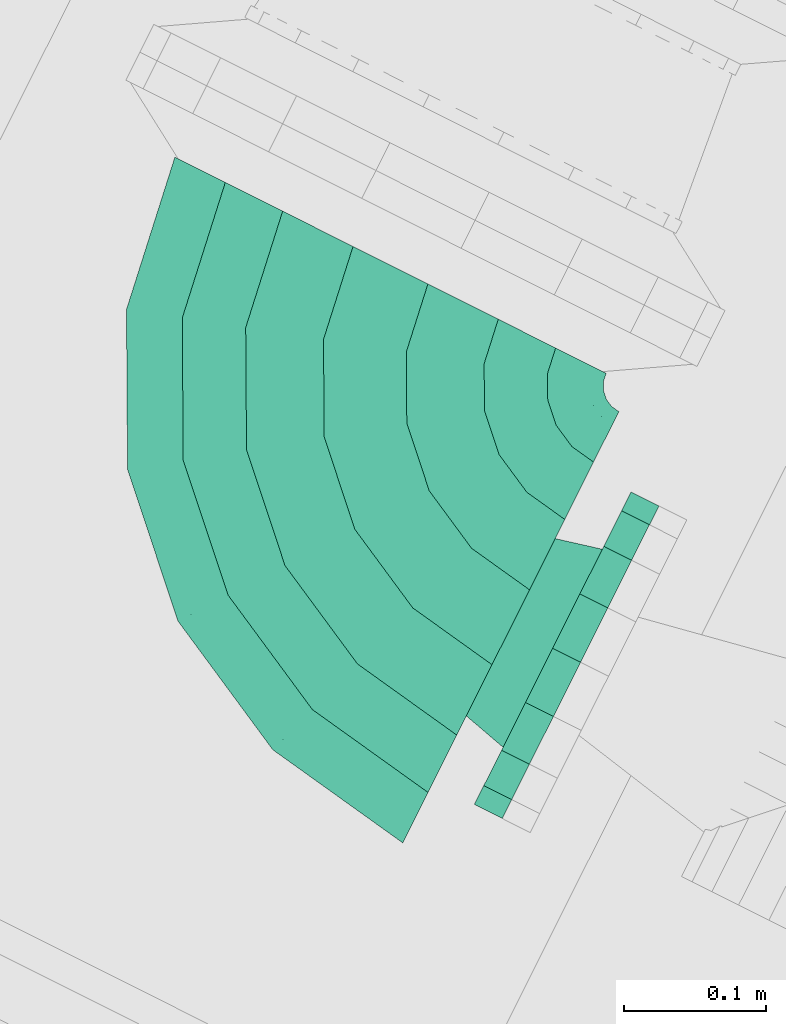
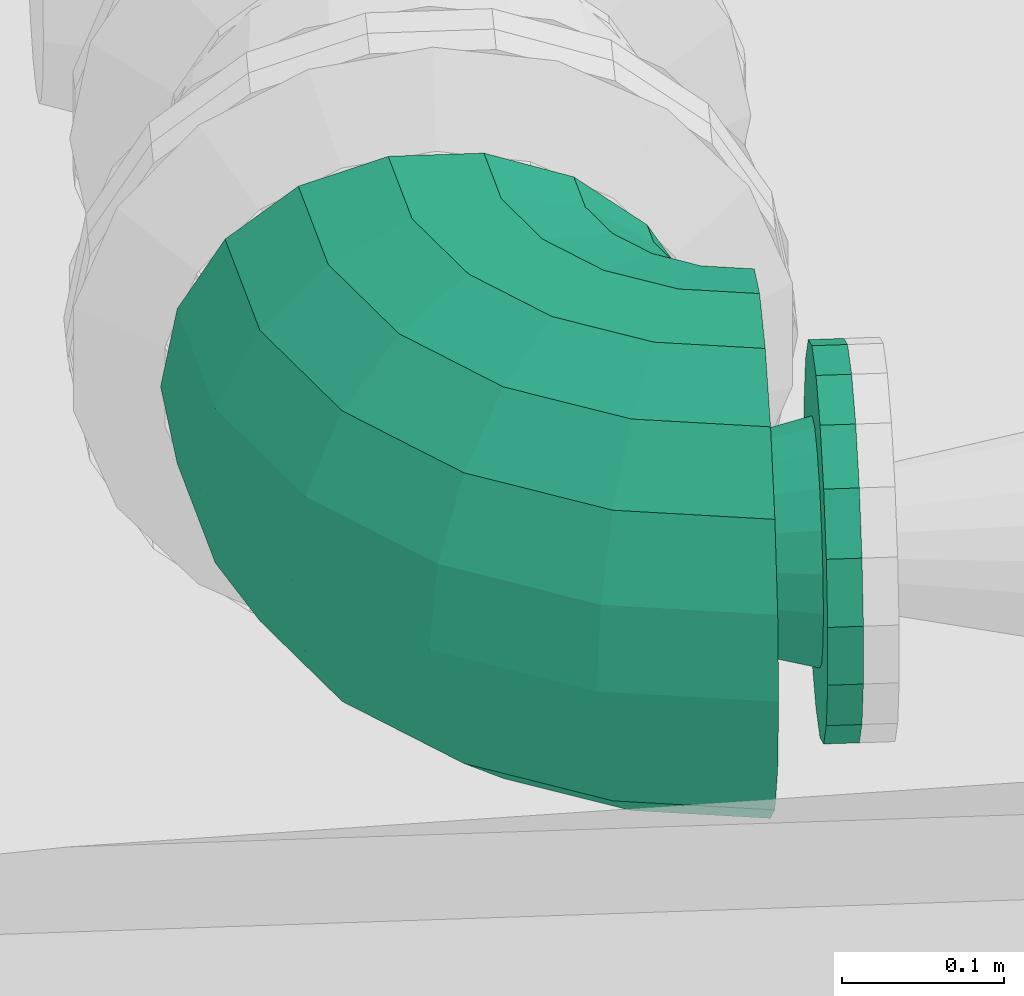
# One storey, part 50 of 206: 1 flow fitting, 1 flow segment.
"""IFC2X3 building model written with IfcOpenShell, lengths in metres."""

import ifcopenshell
import ifcopenshell.guid

model = None  # the IFC model being written
_history = None  # IfcOwnerHistory: only IFC2X3 demands one
_inside = {}  # id of a spatial element -> (the spatial element, [elements in it])
_under = {}  # id of a project, library or spatial element -> (it, [spatial elements below it])
_declared = {}  # id of a project -> (the project, [libraries it declares])
_typed = {}  # id of a type object -> (the type object, [elements of that type])
_made_of = {}  # id of a material, layer set ... -> (it, [elements and type objects made of it])


def new_model(schema):
    """Start an empty IFC model of exactly this schema.

    Asked for "IFC4X3", IfcOpenShell would pick the latest addendum, in which some entities
    have other attributes; the version numbers below select the first issue.
    IFC2X3 requires an IfcOwnerHistory on every rooted entity: one is made here for all.
    """
    global model, _history
    if schema == "IFC4X3":
        model = ifcopenshell.file(schema_version=(4, 3, 0, 0))
    else:
        model = ifcopenshell.file(schema=schema)
    _inside.clear()
    _under.clear()
    _declared.clear()
    _typed.clear()
    _made_of.clear()
    _history = None
    if model.schema == "IFC2X3":
        org = make("IfcOrganization", Name="unknown")
        user = make(
            "IfcPersonAndOrganization",
            ThePerson=make("IfcPerson", FamilyName="unknown"),
            TheOrganization=org,
        )
        app = make(
            "IfcApplication",
            ApplicationDeveloper=org,
            Version="unknown",
            ApplicationFullName="unknown",
            ApplicationIdentifier="unknown",
        )
        _history = make(
            "IfcOwnerHistory",
            OwningUser=user,
            OwningApplication=app,
            ChangeAction="ADDED",
            CreationDate=0,
        )
    return model


def make(cls, **values):
    """One entity of the class cls with the attributes given. An attribute that is None is left unset."""
    return model.create_entity(
        cls, **{name: value for name, value in values.items() if value is not None}
    )


def rooted(cls, **values):
    """An entity with a GlobalId (a new one), such as an element, a storey or a relation."""
    return make(cls, GlobalId=ifcopenshell.guid.new(), OwnerHistory=_history, **values)


def si_unit(unit_type, name, prefix=None):
    """IfcSIUnit, for example si_unit("LENGTHUNIT", "METRE", prefix="MILLI")."""
    return make("IfcSIUnit", UnitType=unit_type, Prefix=prefix, Name=name)


def derived_unit(unit_type, elements):
    """IfcDerivedUnit: a product of units, each with its exponent."""
    return make(
        "IfcDerivedUnit",
        Elements=[
            make("IfcDerivedUnitElement", Unit=unit, Exponent=power)
            for unit, power in elements
        ],
        UnitType=unit_type,
    )


def assignment(units):
    """IfcUnitAssignment: the units of a project."""
    return None if units is None else make("IfcUnitAssignment", Units=units)


def point(xyz):
    """IfcCartesianPoint."""
    return None if xyz is None else make("IfcCartesianPoint", Coordinates=xyz)


def direction(xyz):
    """IfcDirection."""
    return None if xyz is None else make("IfcDirection", DirectionRatios=xyz)


def frame(location, z_axis=None, x_axis=None):
    """IfcAxis2Placement3D, a coordinate frame: its origin and axes. An axis left out is left unset."""
    return make(
        "IfcAxis2Placement3D",
        Location=point(location),
        Axis=direction(z_axis),
        RefDirection=direction(x_axis),
    )


def origin():
    """The frame at (0, 0, 0) with its axes left unset."""
    return frame((0.0, 0.0, 0.0))


def place(relative_to, where):
    """IfcLocalPlacement: puts the frame where relative to a parent placement (None: the world)."""
    return make(
        "IfcLocalPlacement", PlacementRelTo=relative_to, RelativePlacement=where
    )


def context(
    kind, dimensions, precision=None, world=None, true_north=None, identifier=None
):
    """IfcGeometricRepresentationContext, for example the 3D "Model" context."""
    return make(
        "IfcGeometricRepresentationContext",
        ContextIdentifier=identifier,
        ContextType=kind,
        CoordinateSpaceDimension=dimensions,
        Precision=precision,
        WorldCoordinateSystem=world,
        TrueNorth=true_north,
    )


def subcontext(parent, identifier, kind, view, scale=None):
    """IfcGeometricRepresentationSubContext, for example "Body" below "Model"."""
    return make(
        "IfcGeometricRepresentationSubContext",
        ContextIdentifier=identifier,
        ContextType=kind,
        ParentContext=parent,
        TargetScale=scale,
        TargetView=view,
    )


def project(units=None, contexts=None):
    """IfcProject with its units and contexts."""
    return rooted(
        "IfcProject",
        Name="project",
        RepresentationContexts=contexts,
        UnitsInContext=assignment(units),
    )


def spatial(cls, under=None, at=None, **own):
    """A site, building, storey or space (cls), placed at a placement, below another one or the project."""
    s = rooted(cls, ObjectPlacement=at, **own)
    if under is not None:
        _under.setdefault(under.id(), (under, []))[1].append(s)
    return s


def faces_of(points, faces, orient=None, outer=None):
    """IfcFace entities. A face is a list of loops; a loop is a list of indices into points, from 0.

    orient and outer hold one flag for each loop. By default every Orientation is true, the
    first loop of a face is its IfcFaceOuterBound and the others are IfcFaceBound.
    """
    made = []
    for i, loops in enumerate(faces):
        bounds = []
        for j, loop in enumerate(loops):
            is_outer = j == 0 if outer is None else outer[i][j]
            bounds.append(
                make(
                    "IfcFaceOuterBound" if is_outer else "IfcFaceBound",
                    Bound=make("IfcPolyLoop", Polygon=[points[k] for k in loop]),
                    Orientation=True if orient is None else orient[i][j],
                )
            )
        made.append(make("IfcFace", Bounds=bounds))
    return made


def face_set(faces, orient=None, outer=None):
    """The faces of one IfcConnectedFaceSet. surface_model builds it on its shared points."""
    return ("IfcConnectedFaceSet", faces, orient, outer)


def surface_model(cls, points, shells):
    """IfcFaceBasedSurfaceModel or IfcShellBasedSurfaceModel (cls): surfaces that need not close."""
    shared = [point(p) for p in points]
    made = [make(c, CfsFaces=faces_of(shared, fs, o, b)) for c, fs, o, b in shells]
    if cls == "IfcFaceBasedSurfaceModel":
        return make(cls, FbsmFaces=made)
    return make(cls, SbsmBoundary=made)


def shape(context_of_items, identifier, shape_type, items):
    """IfcShapeRepresentation: the items that make up one representation, for example the "Body"."""
    return make(
        "IfcShapeRepresentation",
        ContextOfItems=context_of_items,
        RepresentationIdentifier=identifier,
        RepresentationType=shape_type,
        Items=items,
    )


def source(mapping_origin, context_of_items, identifier, shape_type, items):
    """IfcRepresentationMap: a shape defined once, which mapped items show again and again."""
    return make(
        "IfcRepresentationMap",
        MappingOrigin=mapping_origin,
        MappedRepresentation=shape(context_of_items, identifier, shape_type, items),
    )


def transform(
    local_origin,
    x_axis=None,
    y_axis=None,
    z_axis=None,
    scale=None,
    scale2=None,
    scale3=None,
    uniform=True,
):
    """IfcCartesianTransformationOperator3D, or its non-uniform kind. x_axis, y_axis, z_axis: its Axis1, 2, 3."""
    if uniform:
        return make(
            "IfcCartesianTransformationOperator3D",
            Axis1=direction(x_axis),
            Axis2=direction(y_axis),
            LocalOrigin=point(local_origin),
            Scale=scale,
            Axis3=direction(z_axis),
        )
    return make(
        "IfcCartesianTransformationOperator3DnonUniform",
        Axis1=direction(x_axis),
        Axis2=direction(y_axis),
        LocalOrigin=point(local_origin),
        Scale=scale,
        Axis3=direction(z_axis),
        Scale2=scale2,
        Scale3=scale3,
    )


def mapped(mapping_source, mapping_target):
    """IfcMappedItem: shows the shape of a source again, moved by a transform."""
    return make(
        "IfcMappedItem", MappingSource=mapping_source, MappingTarget=mapping_target
    )


def material(Name=None, Category=None):
    """IfcMaterial."""
    return make("IfcMaterial", Name=Name, Category=Category)


def made_of(thing, what):
    """Note that an element or type object is made of a material, layer set ...; save() writes the relation."""
    if what is not None:
        _made_of.setdefault(what.id(), (what, []))[1].append(thing)
    return thing


def type_object(cls, material=None, **own):
    """A type object (cls), such as IfcWallType, which elements share."""
    return made_of(rooted(cls, **own), material)


def type_shapes(of_type, sources):
    """Give a type object the sources (RepresentationMaps) that its elements show as mapped items."""
    of_type.RepresentationMaps = sources


def element(
    cls,
    number,
    at=None,
    inside=None,
    cuts=None,
    type_object=None,
    material=None,
    context=None,
    identifier="Body",
    shape_type=None,
    held_by="IfcProductDefinitionShape",
    body=None,
    shapes=None,
    **own,
):
    """One element of the class cls, such as IfcWall. Its Tag is "e" and its number.

    at: its placement. inside: the storey or other place that contains it. cuts: it is an
    opening in that element (IfcRelVoidsElement). A single representation is given by context,
    identifier, shape_type and body (its items); several are given by shapes. held_by: the class
    of the entity that holds the representations. save() writes the other relations.
    """
    e = rooted(cls, Tag="e%d" % number, ObjectPlacement=at, **own)
    if body is not None:
        shapes = [shape(context, identifier, shape_type, body)]
    if shapes is not None:
        e.Representation = make(held_by, Representations=shapes)
    if inside is not None:
        _inside.setdefault(inside.id(), (inside, []))[1].append(e)
    if cuts is not None:
        rooted(
            "IfcRelVoidsElement", RelatingBuildingElement=cuts, RelatedOpeningElement=e
        )
    if type_object is not None:
        _typed.setdefault(type_object.id(), (type_object, []))[1].append(e)
    return made_of(e, material)


def aggregate(whole, parts):
    """IfcRelAggregates: a whole, such as a stair, and the parts it consists of."""
    return rooted("IfcRelAggregates", RelatingObject=whole, RelatedObjects=parts)


def save(model, path):
    """Write the relations noted so far, then the file.

    IfcRelAggregates (storeys below a building ...), IfcRelContainedInSpatialStructure (elements
    in a storey), IfcRelDefinesByType, IfcRelAssociatesMaterial and IfcRelDeclares: one each for
    every whole, place, type object, material and project.
    """
    for whole, parts in _under.values():
        aggregate(whole, parts)
    for where, things in _inside.values():
        rooted(
            "IfcRelContainedInSpatialStructure",
            RelatedElements=things,
            RelatingStructure=where,
        )
    for kind, things in _typed.values():
        rooted("IfcRelDefinesByType", RelatedObjects=things, RelatingType=kind)
    for what, things in _made_of.values():
        rooted("IfcRelAssociatesMaterial", RelatedObjects=things, RelatingMaterial=what)
    for by, libraries in _declared.values():
        rooted("IfcRelDeclares", RelatingContext=by, RelatedDefinitions=libraries)
    model.write(path)


model = new_model("IFC2X3")

# Units and contexts
model_context = context("Model", 3, precision=5.2338327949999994e-05, world=origin(), true_north=direction((0.0, 1.0)))
body_context = subcontext(model_context, "Body", "Model", "MODEL_VIEW")
ifc_project = project(units=[si_unit("LENGTHUNIT", "METRE"), si_unit("AREAUNIT", "SQUARE_METRE"), si_unit("VOLUMEUNIT", "CUBIC_METRE"), si_unit("MASSUNIT", "GRAM", prefix="KILO"), si_unit("PLANEANGLEUNIT", "RADIAN"), derived_unit("THERMALTRANSMITTANCEUNIT", [(si_unit("MASSUNIT", "GRAM", prefix="KILO"), 1), (si_unit("THERMODYNAMICTEMPERATUREUNIT", "KELVIN"), -1), (si_unit("TIMEUNIT", "SECOND"), -3)])], contexts=[model_context])

# Site, building, storey
site_placement = place(None, frame((0.0, 0.0, 0.0), z_axis=(0.0, 0.0, 1.0), x_axis=(0.8939966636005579, -0.4480736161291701, 0.0)))
site = spatial("IfcSite", under=ifc_project, at=site_placement, Name="Default", CompositionType="ELEMENT")
building_placement = place(site_placement, origin())
building = spatial("IfcBuilding", under=site, at=building_placement, CompositionType="ELEMENT")
storey_placement = place(building_placement, origin())
storey = spatial("IfcBuildingStorey", under=building, at=storey_placement, Name="Erdgeschoss", CompositionType="ELEMENT", Elevation=0.0)

# Flow segment
ifc_material = material(Name="IfcSurfaceStyle #1741")
distribution_element_type_1 = type_object("IfcDistributionElementType", Name="Rohrbogen 319884:Rohrbogen 319884", material=ifc_material)
shared_shape_1 = source(origin(), body_context, "Body", "SurfaceModel", [
    surface_model("IfcFaceBasedSurfaceModel", [(23.01500389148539, 5.585961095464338, 2.3540000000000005), (23.01921636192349, 5.585961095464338, 2.330109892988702), (23.03172815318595, 5.506964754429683, 2.3301098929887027), (23.027721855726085, 5.505663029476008, 2.354), (23.068038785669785, 5.435701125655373, 2.330109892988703), (23.06463082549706, 5.433225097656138, 2.3539999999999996), (23.124593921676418, 5.379145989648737, 2.330109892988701), (23.12211789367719, 5.375738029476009, 2.353999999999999), (23.195857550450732, 5.342835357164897, 2.330109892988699), (23.194555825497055, 5.338829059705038, 2.353999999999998), (23.27485389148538, 5.330323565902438, 2.3301098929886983), (23.274853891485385, 5.326111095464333, 2.353999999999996), (23.031345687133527, 5.585961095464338, 2.3091012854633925), (23.04326382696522, 5.510712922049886, 2.309101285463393), (23.077851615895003, 5.44283056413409, 2.3091012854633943), (23.131723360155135, 5.388958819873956, 2.3091012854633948), (23.19960571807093, 5.354371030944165, 2.3091012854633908), (23.274853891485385, 5.342452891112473, 2.3091012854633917), (23.04992889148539, 5.585961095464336, 2.2935081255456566), (23.0609375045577, 5.516455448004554, 2.2935081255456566), (23.092885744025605, 5.45375349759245, 2.2935081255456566), (23.142646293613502, 5.40399294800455, 2.2935081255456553), (23.205348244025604, 5.372044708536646, 2.2935081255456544), (23.274853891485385, 5.361036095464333, 2.2935081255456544), (23.07272456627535, 5.585961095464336, 2.2852111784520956), (23.08261747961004, 5.523499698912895, 2.2852111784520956), (23.111327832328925, 5.467152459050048, 2.285211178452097), (23.1560452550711, 5.422435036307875, 2.2852111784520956), (23.21239249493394, 5.393724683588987, 2.285211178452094), (23.274853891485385, 5.383831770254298, 2.285211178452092), (23.096983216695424, 5.585961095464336, 2.285211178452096), (23.105688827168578, 5.530996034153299, 2.285211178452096), (23.130953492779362, 5.4814113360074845, 2.2852111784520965), (23.170304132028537, 5.442060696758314, 2.285211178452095), (23.219888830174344, 5.416796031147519, 2.285211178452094), (23.27485389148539, 5.408090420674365, 2.285211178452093), (23.11977889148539, 5.585961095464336, 2.2935081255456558), (23.127368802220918, 5.538040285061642, 2.2935081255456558), (23.14939558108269, 5.494810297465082, 2.2935081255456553), (23.18370309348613, 5.460502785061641, 2.293508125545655), (23.226933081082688, 5.438476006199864, 2.2935081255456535), (23.274853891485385, 5.430886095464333, 2.2935081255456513), (23.13836209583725, 5.585961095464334, 2.3091012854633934), (23.145042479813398, 5.54378281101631, 2.3091012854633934), (23.16442970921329, 5.505733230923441, 2.309101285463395), (23.194626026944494, 5.475536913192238, 2.3091012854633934), (23.232675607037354, 5.456149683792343, 2.3091012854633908), (23.274853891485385, 5.449469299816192, 2.30910128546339), (23.15049142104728, 5.585961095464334, 2.3301098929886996), (23.156578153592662, 5.547530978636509, 2.3301098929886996), (23.174242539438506, 5.512862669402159, 2.330109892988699), (23.20175546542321, 5.485349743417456, 2.3301098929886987), (23.23642377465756, 5.467685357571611, 2.3301098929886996), (23.274853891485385, 5.461598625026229, 2.3301098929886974), (23.154703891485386, 5.585961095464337, 2.3539999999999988), (23.16058445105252, 5.548832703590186, 2.3539999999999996), (23.177650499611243, 5.5153386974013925, 2.3539999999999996), (23.204231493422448, 5.488757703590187, 2.3539999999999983), (23.237725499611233, 5.47169165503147, 2.353999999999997), (23.27485389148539, 5.465811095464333, 2.3539999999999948), (23.15049142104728, 5.585961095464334, 2.377890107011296), (23.156578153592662, 5.547530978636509, 2.377890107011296), (23.174242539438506, 5.512862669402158, 2.377890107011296), (23.20175546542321, 5.485349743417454, 2.377890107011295), (23.23642377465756, 5.46768535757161, 2.377890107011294), (23.27485389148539, 5.461598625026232, 2.377890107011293), (23.138362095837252, 5.5859610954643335, 2.398898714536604), (23.145042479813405, 5.54378281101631, 2.398898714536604), (23.16442970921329, 5.505733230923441, 2.3988987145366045), (23.194626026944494, 5.475536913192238, 2.398898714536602), (23.232675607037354, 5.456149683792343, 2.3988987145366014), (23.274853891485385, 5.449469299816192, 2.3988987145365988), (23.11977889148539, 5.585961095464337, 2.4144918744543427), (23.127368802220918, 5.538040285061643, 2.4144918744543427), (23.14939558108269, 5.494810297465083, 2.4144918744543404), (23.18370309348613, 5.460502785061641, 2.4144918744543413), (23.226933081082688, 5.438476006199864, 2.4144918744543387), (23.27485389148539, 5.430886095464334, 2.4144918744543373), (23.096983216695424, 5.585961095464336, 2.4227888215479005), (23.105688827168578, 5.530996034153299, 2.4227888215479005), (23.130953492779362, 5.4814113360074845, 2.4227888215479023), (23.170304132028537, 5.442060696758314, 2.4227888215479), (23.219888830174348, 5.416796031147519, 2.4227888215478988), (23.27485389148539, 5.408090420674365, 2.4227888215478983), (23.072724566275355, 5.585961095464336, 2.422788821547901), (23.082617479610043, 5.523499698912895, 2.422788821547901), (23.111327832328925, 5.467152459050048, 2.422788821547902), (23.1560452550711, 5.422435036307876, 2.422788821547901), (23.212392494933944, 5.393724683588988, 2.4227888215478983), (23.27485389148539, 5.383831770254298, 2.4227888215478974), (23.04992889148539, 5.585961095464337, 2.414491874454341), (23.060937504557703, 5.516455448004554, 2.4144918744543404), (23.092885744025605, 5.453753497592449, 2.4144918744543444), (23.142646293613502, 5.403992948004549, 2.414491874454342), (23.2053482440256, 5.372044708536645, 2.4144918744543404), (23.27485389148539, 5.361036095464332, 2.414491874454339), (23.03134568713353, 5.585961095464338, 2.398898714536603), (23.04326382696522, 5.510712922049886, 2.398898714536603), (23.077851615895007, 5.44283056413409, 2.3988987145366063), (23.131723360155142, 5.388958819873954, 2.398898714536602), (23.199605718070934, 5.354371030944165, 2.3988987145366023), (23.274853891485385, 5.342452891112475, 2.3988987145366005), (23.01921636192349, 5.585961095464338, 2.3778901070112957), (23.03172815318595, 5.506964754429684, 2.3778901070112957), (23.068038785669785, 5.435701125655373, 2.3778901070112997), (23.124593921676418, 5.379145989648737, 2.3778901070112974), (23.195857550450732, 5.342835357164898, 2.3778901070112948), (23.274853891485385, 5.330323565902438, 2.3778901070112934), (22.915003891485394, 5.585961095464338, 2.354000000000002), (22.925247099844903, 5.585961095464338, 2.2959078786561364), (22.942358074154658, 5.477926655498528, 2.295907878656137), (22.93261620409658, 5.474761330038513, 2.354000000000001), (22.992016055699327, 5.380467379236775, 2.2959078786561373), (22.98372912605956, 5.3744465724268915, 2.354000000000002), (23.06936017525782, 5.30312325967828, 2.2959078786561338), (23.06333936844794, 5.294836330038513, 2.3539999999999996), (23.166819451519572, 5.253465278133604, 2.295907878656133), (23.16365412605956, 5.243723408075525, 2.353999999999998), (23.27485389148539, 5.236354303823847, 2.2959078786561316), (23.274853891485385, 5.226111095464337, 2.353999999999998), (22.95474124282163, 5.585961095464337, 2.2448225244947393), (22.97040867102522, 5.487040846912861, 2.2448225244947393), (23.01587731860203, 5.397803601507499, 2.2448225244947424), (23.086696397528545, 5.32698452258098, 2.2448225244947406), (23.175933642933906, 5.2815158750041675, 2.2448225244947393), (23.274853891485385, 5.265848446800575, 2.244822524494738), (22.99992889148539, 5.585961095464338, 2.206905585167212), (23.01338467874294, 5.501004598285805, 2.206905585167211), (23.052434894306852, 5.424364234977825, 2.206905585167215), (23.113257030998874, 5.363542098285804, 2.2069055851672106), (23.189897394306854, 5.324491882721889, 2.206905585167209), (23.274853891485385, 5.311036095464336, 2.206905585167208), (23.055359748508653, 5.585961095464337, 2.1867304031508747), (23.066102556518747, 5.518133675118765, 2.1867304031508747), (23.097279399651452, 5.45694567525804, 2.186730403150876), (23.145838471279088, 5.4083866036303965, 2.186730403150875), (23.20702647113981, 5.377209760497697, 2.186730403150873), (23.274853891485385, 5.366466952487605, 2.1867304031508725), (23.114348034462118, 5.585961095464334, 2.1867304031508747), (23.122203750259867, 5.536362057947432, 2.186730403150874), (23.145001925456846, 5.491618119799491, 2.1867304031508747), (23.18051091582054, 5.456109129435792, 2.1867304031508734), (23.22525485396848, 5.433310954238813, 2.186730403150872), (23.274853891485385, 5.425455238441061, 2.1867304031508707), (23.169778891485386, 5.585961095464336, 2.2069055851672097), (23.17492162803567, 5.553491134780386, 2.2069055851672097), (23.189846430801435, 5.524199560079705, 2.206905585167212), (23.21309235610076, 5.50095363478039, 2.206905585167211), (23.242383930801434, 5.486028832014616, 2.2069055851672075), (23.274853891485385, 5.480886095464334, 2.206905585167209), (23.21496654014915, 5.585961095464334, 2.2448225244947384), (23.2178976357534, 5.567454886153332, 2.2448225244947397), (23.226404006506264, 5.5507601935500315, 2.2448225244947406), (23.239652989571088, 5.537511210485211, 2.244822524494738), (23.256347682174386, 5.529004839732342, 2.2448225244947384), (23.27485389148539, 5.52607374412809, 2.244822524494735), (23.244460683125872, 5.5859610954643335, 2.2959078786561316), (23.245948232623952, 5.576569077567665, 2.2959078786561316), (23.250265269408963, 5.568096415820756, 2.2959078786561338), (23.256989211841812, 5.561372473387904, 2.2959078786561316), (23.26546187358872, 5.557055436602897, 2.2959078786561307), (23.27485389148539, 5.555567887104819, 2.2959078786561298), (23.254703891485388, 5.585961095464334, 2.353999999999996), (23.25569010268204, 5.579734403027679, 2.353999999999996), (23.258552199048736, 5.574117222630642, 2.353999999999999), (23.263010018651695, 5.5696594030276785, 2.353999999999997), (23.268627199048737, 5.566797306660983, 2.3539999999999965), (23.27485389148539, 5.565811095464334, 2.353999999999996), (23.24446068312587, 5.585961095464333, 2.4120921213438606), (23.245948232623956, 5.576569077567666, 2.4120921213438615), (23.250265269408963, 5.568096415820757, 2.412092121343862), (23.256989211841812, 5.5613724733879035, 2.4120921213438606), (23.26546187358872, 5.557055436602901, 2.4120921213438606), (23.274853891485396, 5.55556788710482, 2.41209212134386), (23.214966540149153, 5.585961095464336, 2.463177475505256), (23.217897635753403, 5.567454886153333, 2.463177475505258), (23.226404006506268, 5.550760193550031, 2.4631774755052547), (23.23965298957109, 5.537511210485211, 2.4631774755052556), (23.256347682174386, 5.529004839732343, 2.463177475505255), (23.274853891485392, 5.52607374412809, 2.4631774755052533), (23.16977889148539, 5.585961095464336, 2.501094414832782), (23.174921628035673, 5.553491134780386, 2.501094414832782), (23.18984643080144, 5.524199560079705, 2.5010944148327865), (23.21309235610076, 5.500953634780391, 2.5010944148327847), (23.242383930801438, 5.48602883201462, 2.501094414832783), (23.27485389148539, 5.480886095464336, 2.5010944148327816), (23.114348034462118, 5.585961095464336, 2.521269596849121), (23.122203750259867, 5.536362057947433, 2.521269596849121), (23.145001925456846, 5.491618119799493, 2.521269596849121), (23.180510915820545, 5.456109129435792, 2.52126959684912), (23.22525485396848, 5.433310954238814, 2.521269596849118), (23.274853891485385, 5.425455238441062, 2.521269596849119), (23.055359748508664, 5.585961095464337, 2.5212695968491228), (23.066102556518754, 5.518133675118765, 2.5212695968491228), (23.097279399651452, 5.456945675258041, 2.5212695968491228), (23.14583847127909, 5.408386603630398, 2.521269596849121), (23.207026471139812, 5.377209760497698, 2.52126959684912), (23.274853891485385, 5.366466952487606, 2.521269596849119), (22.999928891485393, 5.585961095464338, 2.5010944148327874), (23.01338467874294, 5.501004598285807, 2.5010944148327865), (23.05243489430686, 5.424364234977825, 2.5010944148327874), (23.113257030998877, 5.363542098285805, 2.5010944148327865), (23.189897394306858, 5.32449188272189, 2.5010944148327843), (23.27485389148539, 5.3110360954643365, 2.501094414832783), (22.954741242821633, 5.585961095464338, 2.4631774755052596), (22.970408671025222, 5.487040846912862, 2.4631774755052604), (23.01587731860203, 5.3978036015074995, 2.463177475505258), (23.086696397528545, 5.32698452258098, 2.463177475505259), (23.17593364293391, 5.281515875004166, 2.4631774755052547), (23.27485389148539, 5.265848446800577, 2.4631774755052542), (22.9252470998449, 5.585961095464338, 2.412092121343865), (22.942358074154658, 5.477926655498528, 2.4120921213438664), (22.992016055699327, 5.380467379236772, 2.4120921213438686), (23.06936017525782, 5.30312325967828, 2.4120921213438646), (23.166819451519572, 5.253465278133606, 2.412092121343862), (23.27485389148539, 5.236354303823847, 2.412092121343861)], [face_set([[[0, 1, 2, 3]], [[3, 2, 4, 5]], [[5, 4, 6, 7]], [[7, 6, 8, 9]], [[9, 8, 10, 11]], [[1, 12, 13, 2]], [[2, 13, 14, 4]], [[4, 14, 15, 6]], [[6, 15, 16, 8]], [[8, 16, 17, 10]], [[12, 18, 19, 13]], [[13, 19, 20, 14]], [[14, 20, 21, 15]], [[15, 21, 22, 16]], [[16, 22, 23, 17]], [[18, 24, 25, 19]], [[19, 25, 26, 20]], [[20, 26, 27, 21]], [[21, 27, 28, 22]], [[22, 28, 29, 23]], [[24, 30, 31, 25]], [[25, 31, 32, 26]], [[26, 32, 33, 27]], [[27, 33, 34, 28]], [[28, 34, 35, 29]], [[30, 36, 37, 31]], [[31, 37, 38, 32]], [[32, 38, 39, 33]], [[33, 39, 40, 34]], [[34, 40, 41, 35]], [[36, 42, 43, 37]], [[37, 43, 44, 38]], [[38, 44, 45, 39]], [[39, 45, 46, 40]], [[40, 46, 47, 41]], [[42, 48, 49, 43]], [[43, 49, 50, 44]], [[44, 50, 51, 45]], [[45, 51, 52, 46]], [[46, 52, 53, 47]], [[48, 54, 55, 49]], [[49, 55, 56, 50]], [[50, 56, 57, 51]], [[51, 57, 58, 52]], [[52, 58, 59, 53]], [[54, 60, 61, 55]], [[55, 61, 62, 56]], [[56, 62, 63, 57]], [[57, 63, 64, 58]], [[58, 64, 65, 59]], [[60, 66, 67, 61]], [[61, 67, 68, 62]], [[62, 68, 69, 63]], [[63, 69, 70, 64]], [[64, 70, 71, 65]], [[66, 72, 73, 67]], [[67, 73, 74, 68]], [[68, 74, 75, 69]], [[69, 75, 76, 70]], [[70, 76, 77, 71]], [[72, 78, 79, 73]], [[73, 79, 80, 74]], [[74, 80, 81, 75]], [[75, 81, 82, 76]], [[76, 82, 83, 77]], [[78, 84, 85, 79]], [[79, 85, 86, 80]], [[80, 86, 87, 81]], [[81, 87, 88, 82]], [[82, 88, 89, 83]], [[84, 90, 91, 85]], [[85, 91, 92, 86]], [[86, 92, 93, 87]], [[87, 93, 94, 88]], [[88, 94, 95, 89]], [[90, 96, 97, 91]], [[91, 97, 98, 92]], [[92, 98, 99, 93]], [[93, 99, 100, 94]], [[94, 100, 101, 95]], [[96, 102, 103, 97]], [[97, 103, 104, 98]], [[98, 104, 105, 99]], [[99, 105, 106, 100]], [[100, 106, 107, 101]], [[102, 0, 3, 103]], [[103, 3, 5, 104]], [[104, 5, 7, 105]], [[105, 7, 9, 106]], [[106, 9, 11, 107]], [[108, 109, 110, 111]], [[111, 110, 112, 113]], [[113, 112, 114, 115]], [[115, 114, 116, 117]], [[117, 116, 118, 119]], [[109, 120, 121, 110]], [[110, 121, 122, 112]], [[112, 122, 123, 114]], [[114, 123, 124, 116]], [[116, 124, 125, 118]], [[120, 126, 127, 121]], [[121, 127, 128, 122]], [[122, 128, 129, 123]], [[123, 129, 130, 124]], [[124, 130, 131, 125]], [[126, 132, 133, 127]], [[127, 133, 134, 128]], [[128, 134, 135, 129]], [[129, 135, 136, 130]], [[130, 136, 137, 131]], [[132, 138, 139, 133]], [[133, 139, 140, 134]], [[134, 140, 141, 135]], [[135, 141, 142, 136]], [[136, 142, 143, 137]], [[138, 144, 145, 139]], [[139, 145, 146, 140]], [[140, 146, 147, 141]], [[141, 147, 148, 142]], [[142, 148, 149, 143]], [[144, 150, 151, 145]], [[145, 151, 152, 146]], [[146, 152, 153, 147]], [[147, 153, 154, 148]], [[148, 154, 155, 149]], [[150, 156, 157, 151]], [[151, 157, 158, 152]], [[152, 158, 159, 153]], [[153, 159, 160, 154]], [[154, 160, 161, 155]], [[156, 162, 163, 157]], [[157, 163, 164, 158]], [[158, 164, 165, 159]], [[159, 165, 166, 160]], [[160, 166, 167, 161]], [[162, 168, 169, 163]], [[163, 169, 170, 164]], [[164, 170, 171, 165]], [[165, 171, 172, 166]], [[166, 172, 173, 167]], [[168, 174, 175, 169]], [[169, 175, 176, 170]], [[170, 176, 177, 171]], [[171, 177, 178, 172]], [[172, 178, 179, 173]], [[174, 180, 181, 175]], [[175, 181, 182, 176]], [[176, 182, 183, 177]], [[177, 183, 184, 178]], [[178, 184, 185, 179]], [[180, 186, 187, 181]], [[181, 187, 188, 182]], [[182, 188, 189, 183]], [[183, 189, 190, 184]], [[184, 190, 191, 185]], [[186, 192, 193, 187]], [[187, 193, 194, 188]], [[188, 194, 195, 189]], [[189, 195, 196, 190]], [[190, 196, 197, 191]], [[192, 198, 199, 193]], [[193, 199, 200, 194]], [[194, 200, 201, 195]], [[195, 201, 202, 196]], [[196, 202, 203, 197]], [[198, 204, 205, 199]], [[199, 205, 206, 200]], [[200, 206, 207, 201]], [[201, 207, 208, 202]], [[202, 208, 209, 203]], [[204, 210, 211, 205]], [[205, 211, 212, 206]], [[206, 212, 213, 207]], [[207, 213, 214, 208]], [[208, 214, 215, 209]], [[210, 108, 111, 211]], [[211, 111, 113, 212]], [[212, 113, 115, 213]], [[213, 115, 117, 214]], [[214, 117, 119, 215]]])]),
])
type_shapes(distribution_element_type_1, [shared_shape_1])
flow_segment_placement = place(storey_placement, origin())
element("IfcFlowSegment", 1, at=flow_segment_placement, inside=storey, type_object=distribution_element_type_1, material=ifc_material, Name="Rohrbogen", ObjectType="Rohrbogen", context=body_context, shape_type="MappedRepresentation", body=[
    mapped(shared_shape_1, transform((0.0, 0.0, 0.0), scale=1.0)),
])

# Flow fitting
distribution_element_type_2 = type_object("IfcDistributionElementType", Name="Flansch 319907:Flansch 319907", material=ifc_material)
shared_shape_2 = source(origin(), body_context, "Body", "SurfaceModel", [
    surface_model("IfcFaceBasedSurfaceModel", [(23.329853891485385, 5.395961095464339, 2.479), (23.329853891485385, 5.438713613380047, 2.471461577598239), (23.307853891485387, 5.438713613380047, 2.471461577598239), (23.307853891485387, 5.395961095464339, 2.479), (23.329853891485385, 5.476309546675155, 2.4497555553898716), (23.307853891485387, 5.476309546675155, 2.4497555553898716), (23.329853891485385, 5.504214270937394, 2.4165), (23.307853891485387, 5.504214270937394, 2.4165), (23.329853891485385, 5.519062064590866, 2.3757060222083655), (23.307853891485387, 5.519062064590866, 2.3757060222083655), (23.329853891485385, 5.519062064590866, 2.332293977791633), (23.307853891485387, 5.519062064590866, 2.332293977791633), (23.329853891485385, 5.5042142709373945, 2.291499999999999), (23.307853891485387, 5.5042142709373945, 2.291499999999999), (23.329853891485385, 5.476309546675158, 2.2582444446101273), (23.307853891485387, 5.476309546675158, 2.2582444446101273), (23.329853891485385, 5.43871361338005, 2.23653842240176), (23.307853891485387, 5.43871361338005, 2.23653842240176), (23.329853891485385, 5.395961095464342, 2.229), (23.307853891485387, 5.395961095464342, 2.229), (23.329853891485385, 5.353208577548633, 2.236538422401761), (23.307853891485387, 5.353208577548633, 2.236538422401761), (23.329853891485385, 5.315612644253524, 2.258244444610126), (23.307853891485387, 5.315612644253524, 2.258244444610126), (23.329853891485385, 5.287707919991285, 2.2915), (23.307853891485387, 5.287707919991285, 2.2915), (23.329853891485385, 5.272860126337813, 2.332293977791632), (23.307853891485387, 5.272860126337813, 2.332293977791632), (23.329853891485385, 5.272860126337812, 2.3757060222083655), (23.307853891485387, 5.272860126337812, 2.3757060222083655), (23.329853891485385, 5.287707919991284, 2.4165), (23.307853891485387, 5.287707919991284, 2.4165), (23.329853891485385, 5.315612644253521, 2.4497555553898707), (23.307853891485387, 5.315612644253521, 2.4497555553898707), (23.329853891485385, 5.353208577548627, 2.4714615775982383), (23.307853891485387, 5.353208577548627, 2.4714615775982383), (23.307853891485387, 5.395961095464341, 2.354), (23.307853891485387, 5.473961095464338, 2.353999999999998), (23.307853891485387, 5.469257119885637, 2.327322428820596), (23.274853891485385, 5.461598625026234, 2.3301098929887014), (23.274853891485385, 5.465811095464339, 2.3539999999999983), (23.307853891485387, 5.4557125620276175, 2.303862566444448), (23.274853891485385, 5.4494692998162, 2.3091012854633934), (23.307853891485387, 5.434961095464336, 2.286450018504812), (23.274853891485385, 5.430886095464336, 2.293508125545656), (23.307853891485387, 5.4095056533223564, 2.277184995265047), (23.274853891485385, 5.40809042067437, 2.2852111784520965), (23.307853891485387, 5.382416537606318, 2.2771849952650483), (23.274853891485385, 5.383831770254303, 2.2852111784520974), (23.307853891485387, 5.356961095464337, 2.2864500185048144), (23.274853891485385, 5.361036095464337, 2.2935081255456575), (23.307853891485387, 5.336209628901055, 2.30386256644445), (23.274853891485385, 5.342452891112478, 2.3091012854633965), (23.307853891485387, 5.322665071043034, 2.3273224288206), (23.274853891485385, 5.330323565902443, 2.330109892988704), (23.307853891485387, 5.3179610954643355, 2.3540000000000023), (23.274853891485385, 5.326111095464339, 2.3540000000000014), (23.307853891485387, 5.322665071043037, 2.380677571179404), (23.274853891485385, 5.330323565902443, 2.3778901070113), (23.307853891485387, 5.336209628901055, 2.404137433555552), (23.274853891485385, 5.342452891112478, 2.398898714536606), (23.307853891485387, 5.356961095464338, 2.421549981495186), (23.274853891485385, 5.361036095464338, 2.4144918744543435), (23.307853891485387, 5.382416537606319, 2.4308150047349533), (23.274853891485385, 5.383831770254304, 2.422788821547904), (23.307853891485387, 5.4095056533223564, 2.4308150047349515), (23.274853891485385, 5.4080904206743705, 2.422788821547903), (23.307853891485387, 5.43496109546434, 2.4215499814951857), (23.274853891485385, 5.430886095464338, 2.4144918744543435), (23.307853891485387, 5.4557125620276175, 2.404137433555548), (23.274853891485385, 5.4494692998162, 2.398898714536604), (23.307853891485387, 5.46925711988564, 2.3806775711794), (23.274853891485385, 5.461598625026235, 2.377890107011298)], [face_set([[[0, 1, 2, 3]], [[1, 4, 5, 2]], [[4, 6, 7, 5]], [[6, 8, 9, 7]], [[8, 10, 11, 9]], [[10, 12, 13, 11]], [[12, 14, 15, 13]], [[14, 16, 17, 15]], [[16, 18, 19, 17]], [[18, 20, 21, 19]], [[20, 22, 23, 21]], [[22, 24, 25, 23]], [[24, 26, 27, 25]], [[26, 28, 29, 27]], [[28, 30, 31, 29]], [[30, 32, 33, 31]], [[32, 34, 35, 33]], [[34, 0, 3, 35]], [[36, 35, 3]], [[36, 33, 35]], [[36, 31, 33]], [[36, 29, 31]], [[36, 27, 29]], [[36, 25, 27]], [[36, 23, 25]], [[36, 21, 23]], [[36, 19, 21]], [[36, 17, 19]], [[36, 15, 17]], [[36, 13, 15]], [[36, 11, 13]], [[36, 9, 11]], [[36, 7, 9]], [[36, 5, 7]], [[36, 2, 5]], [[36, 3, 2]], [[37, 38, 39, 40]], [[38, 41, 42, 39]], [[41, 43, 44, 42]], [[43, 45, 46, 44]], [[45, 47, 48, 46]], [[47, 49, 50, 48]], [[49, 51, 52, 50]], [[51, 53, 54, 52]], [[53, 55, 56, 54]], [[55, 57, 58, 56]], [[57, 59, 60, 58]], [[59, 61, 62, 60]], [[61, 63, 64, 62]], [[63, 65, 66, 64]], [[65, 67, 68, 66]], [[67, 69, 70, 68]], [[69, 71, 72, 70]], [[71, 37, 40, 72]]])]),
])
type_shapes(distribution_element_type_2, [shared_shape_2])
flow_fitting_placement = place(storey_placement, origin())
element("IfcFlowFitting", 2, at=flow_fitting_placement, inside=storey, type_object=distribution_element_type_2, material=ifc_material, Name="Flansch", ObjectType="Flansch", context=body_context, shape_type="MappedRepresentation", body=[
    mapped(shared_shape_2, transform((0.0, 0.0, 0.0), scale=1.0)),
])

save(model, "model.ifc")
